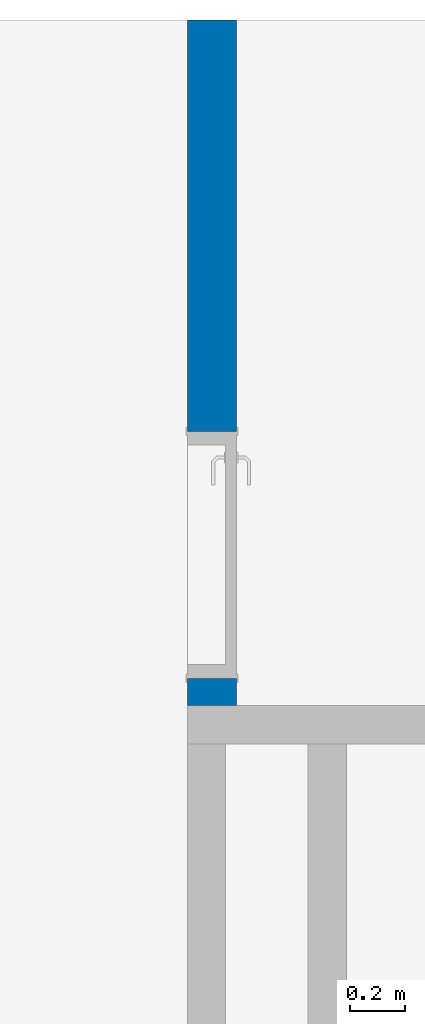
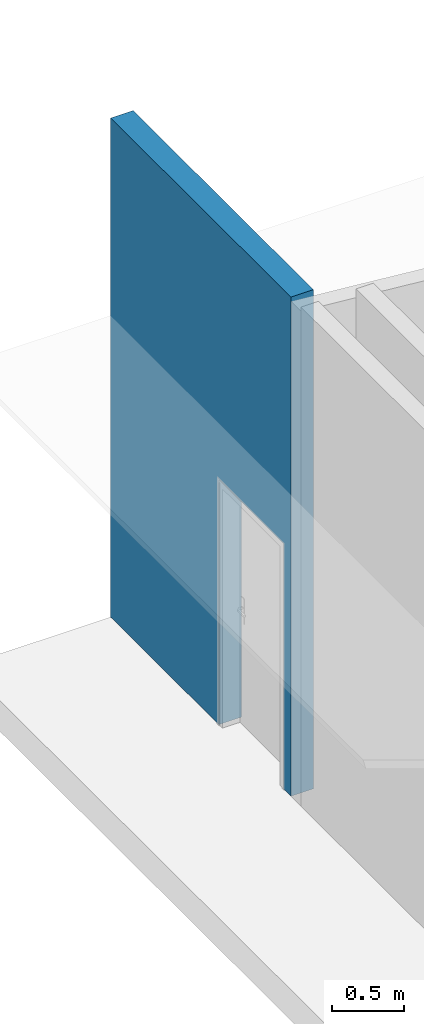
# One storey, part 2 of 31: 1 wall, 1 opening.
"""IFC2X3 building model written with IfcOpenShell, lengths in millimetres."""

from ifc_helpers import new_model, entity, si_unit, converted_unit, derived_unit, direction, frame, frame_2d, origin, place, context, subcontext, project, spatial, rectangle, extrude, material, layer, layer_set, layer_usage, type_object, element, save


model = new_model("IFC2X3")

# Units and contexts
model_context = context("Model", 3, precision=0.01, world=origin(), true_north=direction((6.123031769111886e-17, 1.0)))
body_context = subcontext(model_context, "Body", "Model", "MODEL_VIEW")
ifc_project = project(units=[si_unit("LENGTHUNIT", "METRE", prefix="MILLI"), si_unit("AREAUNIT", "SQUARE_METRE"), si_unit("VOLUMEUNIT", "CUBIC_METRE"), converted_unit("PLANEANGLEUNIT", "DEGREE", entity("IfcRatioMeasure", 0.017453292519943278), si_unit("PLANEANGLEUNIT", "RADIAN"), dimensions=[0, 0, 0, 0, 0, 0, 0]), si_unit("MASSUNIT", "GRAM", prefix="KILO"), derived_unit("MASSDENSITYUNIT", [(si_unit("MASSUNIT", "GRAM", prefix="KILO"), 1), (si_unit("LENGTHUNIT", "METRE"), -3)]), derived_unit("MOMENTOFINERTIAUNIT", [(si_unit("LENGTHUNIT", "METRE"), 4)]), si_unit("TIMEUNIT", "SECOND"), si_unit("FREQUENCYUNIT", "HERTZ"), si_unit("THERMODYNAMICTEMPERATUREUNIT", "DEGREE_CELSIUS"), derived_unit("THERMALTRANSMITTANCEUNIT", [(si_unit("MASSUNIT", "GRAM", prefix="KILO"), 1), (si_unit("THERMODYNAMICTEMPERATUREUNIT", "KELVIN"), -1), (si_unit("TIMEUNIT", "SECOND"), -3)]), derived_unit("VOLUMETRICFLOWRATEUNIT", [(si_unit("LENGTHUNIT", "METRE"), 3), (si_unit("TIMEUNIT", "SECOND"), -1)]), derived_unit("MASSFLOWRATEUNIT", [(si_unit("MASSUNIT", "GRAM", prefix="KILO"), 1), (si_unit("TIMEUNIT", "SECOND"), -1)]), derived_unit("ROTATIONALFREQUENCYUNIT", [(si_unit("TIMEUNIT", "SECOND"), -1)]), si_unit("ELECTRICCURRENTUNIT", "AMPERE"), si_unit("ELECTRICVOLTAGEUNIT", "VOLT"), si_unit("POWERUNIT", "WATT"), si_unit("FORCEUNIT", "NEWTON", prefix="KILO"), si_unit("ILLUMINANCEUNIT", "LUX"), si_unit("LUMINOUSFLUXUNIT", "LUMEN"), si_unit("LUMINOUSINTENSITYUNIT", "CANDELA"), derived_unit("USERDEFINED", [(si_unit("MASSUNIT", "GRAM", prefix="KILO"), -1), (si_unit("LENGTHUNIT", "METRE"), -2), (si_unit("TIMEUNIT", "SECOND"), 3), (si_unit("LUMINOUSFLUXUNIT", "LUMEN"), 1)]), derived_unit("SOUNDPOWERUNIT", [(si_unit("MASSUNIT", "GRAM", prefix="KILO"), 1), (si_unit("LENGTHUNIT", "METRE"), 2), (si_unit("TIMEUNIT", "SECOND"), -3)]), derived_unit("SOUNDPRESSUREUNIT", [(si_unit("MASSUNIT", "GRAM", prefix="KILO"), 1), (si_unit("LENGTHUNIT", "METRE"), -1), (si_unit("TIMEUNIT", "SECOND"), -2)]), derived_unit("LINEARVELOCITYUNIT", [(si_unit("LENGTHUNIT", "METRE"), 1), (si_unit("TIMEUNIT", "SECOND"), -1)]), si_unit("PRESSUREUNIT", "PASCAL"), derived_unit("USERDEFINED", [(si_unit("LENGTHUNIT", "METRE"), -2), (si_unit("MASSUNIT", "GRAM", prefix="KILO"), 1), (si_unit("TIMEUNIT", "SECOND"), -2)]), derived_unit("LINEARFORCEUNIT", [(si_unit("MASSUNIT", "GRAM", prefix="KILO"), 1), (si_unit("LENGTHUNIT", "METRE"), 1), (si_unit("TIMEUNIT", "SECOND"), -2), (si_unit("LENGTHUNIT", "METRE"), -1)]), derived_unit("PLANARFORCEUNIT", [(si_unit("MASSUNIT", "GRAM", prefix="KILO"), 1), (si_unit("LENGTHUNIT", "METRE"), 1), (si_unit("TIMEUNIT", "SECOND"), -2), (si_unit("LENGTHUNIT", "METRE"), -2)])], contexts=[model_context])

# Site, building, storey
site_placement = place(None, origin())
site = spatial("IfcSite", under=ifc_project, at=site_placement, Name="Default", CompositionType="ELEMENT")
building_placement = place(site_placement, origin())
building = spatial("IfcBuilding", under=site, at=building_placement, CompositionType="ELEMENT")
storey_placement = place(building_placement, frame((0.0, 0.0, 3880.0)))
storey = spatial("IfcBuildingStorey", under=building, at=storey_placement, Name="Niveau 1", CompositionType="ELEMENT", Elevation=3880.0)

# Wall, opening
ifc_material = material(Name="Mur par défaut")
ifc_layer = layer(ifc_material, 180.0)
ifc_layer_set = layer_set([ifc_layer], Name="Mur de base:Générique - 180 mm")
ifc_layer_usage = layer_usage(ifc_layer_set, "AXIS2", "NEGATIVE", 90.0)
wall_type = type_object("IfcWallType", Name="Mur de base:Générique - 180 mm", PredefinedType="STANDARD", material=ifc_layer_set)
wall_placement = place(storey_placement, frame((-6520.0, -2820.0, 0.0), z_axis=(0.0, 0.0, 1.0), x_axis=(0.0, 1.0, 0.0)))
wall = element("IfcWallStandardCase", 1, at=wall_placement, inside=storey, type_object=wall_type, material=ifc_layer_usage, Name="Mur de base:Générique - 180 mm", ObjectType="Mur de base:Générique - 180 mm", context=body_context, shape_type="SweptSolid", body=[
    extrude(rectangle(XDim=2500.000000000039, YDim=180.00000000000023, at=frame_2d((1250.0000000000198, 0.0), x_axis=(1.0, 0.0))), origin(), (0.0, 0.0, 1.0), 4225.000000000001),
])
opening_placement = place(wall_placement, frame((1000.0, 90.0, 0.0)))
element("IfcOpeningElement", 2, at=opening_placement, cuts=wall, Name="Int. Simple:PP (0.83m x 2.04m):1", ObjectType="Opening", context=body_context, shape_type="SweptSolid", body=[
    extrude(rectangle(XDim=2075.0, YDim=900.0000000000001, at=frame_2d((1037.5, 450.00000000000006), x_axis=(1.0, 0.0))), frame((0.0, 0.0, 0.0), z_axis=(0.0, -1.0, 0.0), x_axis=(0.0, 0.0, 1.0)), (0.0, 0.0, 1.0), 180.0),
])

save(model, "model.ifc")
